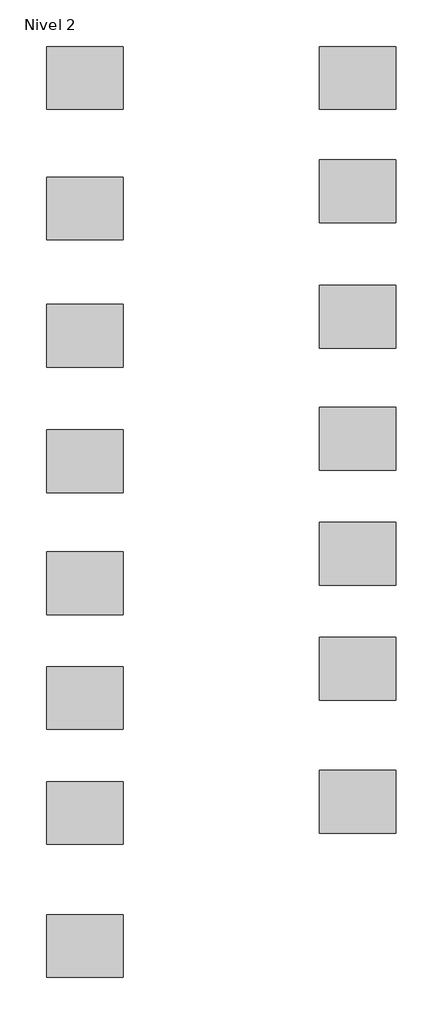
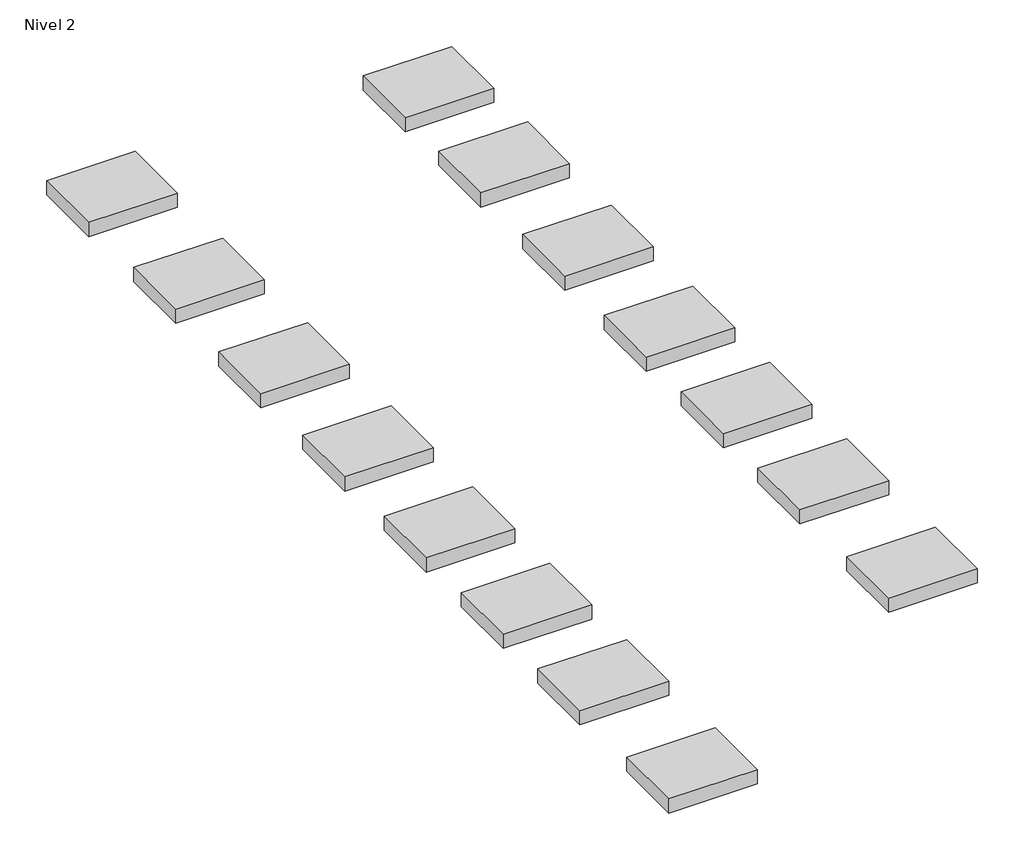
# One storey: 15 furniture elements.
"""IFC4 building model written with IfcOpenShell, lengths in millimetres."""

from ifc_helpers import new_model, si_unit, origin, place, context, project, spatial, transform, mapped, element, save
from components import baltic_baltic_1_fc90d0a3

model = new_model("IFC4")

# Units and contexts
model_context = context("Model", 3, world=origin())
ifc_project = project(units=[si_unit("LENGTHUNIT", "METRE", prefix="MILLI")], contexts=[model_context])

# Site, building, storey
site = spatial("IfcSite", under=ifc_project)
building = spatial("IfcBuilding", under=site)
storey = spatial("IfcBuildingStorey", under=building, Name="Nivel 2", Elevation=4000.0)

# Furniture
placement = place(None, origin())
baltic_baltic_1_shape = baltic_baltic_1_fc90d0a3(model_context)
element("IfcFurniture", 1, ObjectType="Baltic : Baltic 1", at=placement, inside=storey, context=model_context, shape_type="MappedRepresentation", body=[
    mapped(baltic_baltic_1_shape, transform((-9674.6867993, 5160.919512, 4000.0), x_axis=(1.0, 0.0, 0.0), y_axis=(0.0, 1.0, 0.0), z_axis=(0.0, 0.0, 1.0))),
])
element("IfcFurniture", 2, ObjectType="Baltic : Baltic 10", at=placement, inside=storey, context=model_context, shape_type="MappedRepresentation", body=[
    mapped(baltic_baltic_1_shape, transform((-9674.6867993, -11668.6836678, 4000.0), x_axis=(1.0, 0.0, 0.0), y_axis=(0.0, 1.0, 0.0), z_axis=(0.0, 0.0, 1.0))),
])
element("IfcFurniture", 3, ObjectType="Baltic : Baltic 11", at=placement, inside=storey, context=model_context, shape_type="MappedRepresentation", body=[
    mapped(baltic_baltic_1_shape, transform((-4374.6867993, 5160.919512, 4000.0), x_axis=(1.0, 0.0, 0.0), y_axis=(0.0, 1.0, 0.0), z_axis=(0.0, 0.0, 1.0))),
])
element("IfcFurniture", 4, ObjectType="Baltic : Baltic 16", at=placement, inside=storey, context=model_context, shape_type="MappedRepresentation", body=[
    mapped(baltic_baltic_1_shape, transform((-4374.6867993, 2962.8228274, 4000.0), x_axis=(1.0, 0.0, 0.0), y_axis=(0.0, 1.0, 0.0), z_axis=(0.0, 0.0, 1.0))),
])
element("IfcFurniture", 5, ObjectType="Baltic : Baltic 18", at=placement, inside=storey, context=model_context, shape_type="MappedRepresentation", body=[
    mapped(baltic_baltic_1_shape, transform((-4374.6867993, 531.3163322, 4000.0), x_axis=(1.0, 0.0, 0.0), y_axis=(0.0, 1.0, 0.0), z_axis=(0.0, 0.0, 1.0))),
])
element("IfcFurniture", 6, ObjectType="Baltic : Baltic 2", at=placement, inside=storey, context=model_context, shape_type="MappedRepresentation", body=[
    mapped(baltic_baltic_1_shape, transform((-9674.6867993, 2628.1002461, 4000.0), x_axis=(1.0, 0.0, 0.0), y_axis=(0.0, 1.0, 0.0), z_axis=(0.0, 0.0, 1.0))),
])
element("IfcFurniture", 7, ObjectType="Baltic : Baltic 21", at=placement, inside=storey, context=model_context, shape_type="MappedRepresentation", body=[
    mapped(baltic_baltic_1_shape, transform((-4374.6867993, -1832.6483159, 4000.0), x_axis=(1.0, 0.0, 0.0), y_axis=(0.0, 1.0, 0.0), z_axis=(0.0, 0.0, 1.0))),
])
element("IfcFurniture", 8, ObjectType="Baltic : Baltic 22", at=placement, inside=storey, context=model_context, shape_type="MappedRepresentation", body=[
    mapped(baltic_baltic_1_shape, transform((-4374.6867993, -4061.5292699, 4000.0), x_axis=(1.0, 0.0, 0.0), y_axis=(0.0, 1.0, 0.0), z_axis=(0.0, 0.0, 1.0))),
])
element("IfcFurniture", 9, ObjectType="Baltic : Baltic 23", at=placement, inside=storey, context=model_context, shape_type="MappedRepresentation", body=[
    mapped(baltic_baltic_1_shape, transform((-4374.6867993, -6290.4102238, 4000.0), x_axis=(1.0, 0.0, 0.0), y_axis=(0.0, 1.0, 0.0), z_axis=(0.0, 0.0, 1.0))),
])
element("IfcFurniture", 10, ObjectType="Baltic : Baltic 24", at=placement, inside=storey, context=model_context, shape_type="MappedRepresentation", body=[
    mapped(baltic_baltic_1_shape, transform((-4374.6867993, -8868.6836678, 4000.0), x_axis=(1.0, 0.0, 0.0), y_axis=(0.0, 1.0, 0.0), z_axis=(0.0, 0.0, 1.0))),
])
element("IfcFurniture", 11, ObjectType="Baltic : Baltic 3", at=placement, inside=storey, context=model_context, shape_type="MappedRepresentation", body=[
    mapped(baltic_baltic_1_shape, transform((-9674.6867993, 162.8228274, 4000.0), x_axis=(1.0, 0.0, 0.0), y_axis=(0.0, 1.0, 0.0), z_axis=(0.0, 0.0, 1.0))),
])
element("IfcFurniture", 12, ObjectType="Baltic : Baltic 5", at=placement, inside=storey, context=model_context, shape_type="MappedRepresentation", body=[
    mapped(baltic_baltic_1_shape, transform((-9674.6867993, -2268.6836678, 4000.0), x_axis=(1.0, 0.0, 0.0), y_axis=(0.0, 1.0, 0.0), z_axis=(0.0, 0.0, 1.0))),
])
element("IfcFurniture", 13, ObjectType="Baltic : Baltic 6", at=placement, inside=storey, context=model_context, shape_type="MappedRepresentation", body=[
    mapped(baltic_baltic_1_shape, transform((-9674.6867993, -4632.6483159, 4000.0), x_axis=(1.0, 0.0, 0.0), y_axis=(0.0, 1.0, 0.0), z_axis=(0.0, 0.0, 1.0))),
])
element("IfcFurniture", 14, ObjectType="Baltic : Baltic 7", at=placement, inside=storey, context=model_context, shape_type="MappedRepresentation", body=[
    mapped(baltic_baltic_1_shape, transform((-9674.6867993, -6861.5292699, 4000.0), x_axis=(1.0, 0.0, 0.0), y_axis=(0.0, 1.0, 0.0), z_axis=(0.0, 0.0, 1.0))),
])
element("IfcFurniture", 15, ObjectType="Baltic : Baltic 8", at=placement, inside=storey, context=model_context, shape_type="MappedRepresentation", body=[
    mapped(baltic_baltic_1_shape, transform((-9674.6867993, -9090.4102238, 4000.0), x_axis=(1.0, 0.0, 0.0), y_axis=(0.0, 1.0, 0.0), z_axis=(0.0, 0.0, 1.0))),
])

save(model, "model.ifc")
